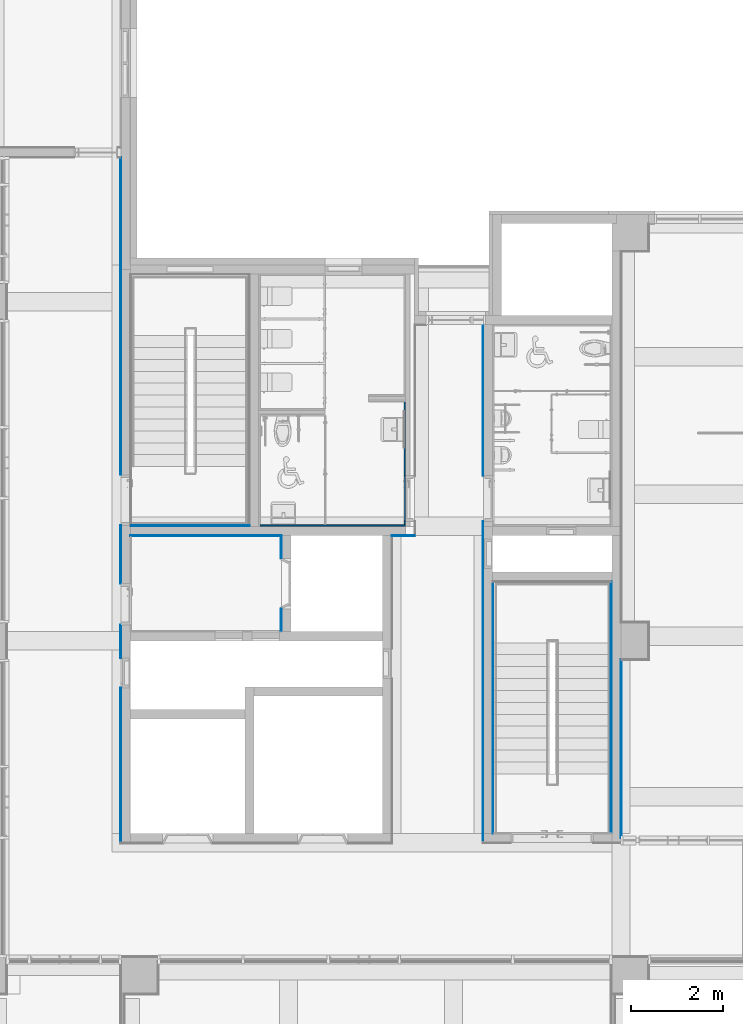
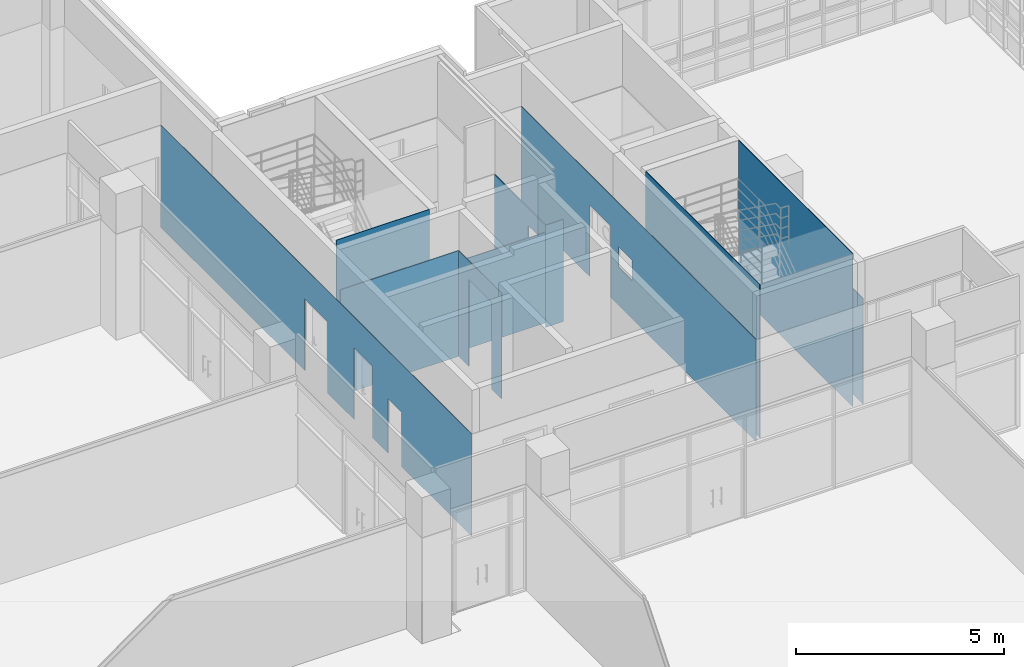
# One storey, part 55 of 74: 11 walls, 7 openings.
"""IFC2X3 building model written with IfcOpenShell, lengths in millimetres."""

from ifc_helpers import new_model, entity, si_unit, converted_unit, derived_unit, direction, frame, frame_2d, origin, place, context, subcontext, project, spatial, rectangle, extrude, material, layer, layer_set, layer_usage, type_object, element, save


model = new_model("IFC2X3")

# Units and contexts
model_context = context("Model", 3, precision=0.01, world=origin(), true_north=direction((6.123031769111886e-17, 1.0)))
body_context = subcontext(model_context, "Body", "Model", "MODEL_VIEW")
ifc_project = project(units=[si_unit("LENGTHUNIT", "METRE", prefix="MILLI"), si_unit("AREAUNIT", "SQUARE_METRE"), si_unit("VOLUMEUNIT", "CUBIC_METRE"), converted_unit("PLANEANGLEUNIT", "DEGREE", entity("IfcRatioMeasure", 0.017453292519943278), si_unit("PLANEANGLEUNIT", "RADIAN"), dimensions=[0, 0, 0, 0, 0, 0, 0]), si_unit("MASSUNIT", "GRAM", prefix="KILO"), derived_unit("MASSDENSITYUNIT", [(si_unit("MASSUNIT", "GRAM", prefix="KILO"), 1), (si_unit("LENGTHUNIT", "METRE"), -3)]), derived_unit("MOMENTOFINERTIAUNIT", [(si_unit("LENGTHUNIT", "METRE"), 4)]), si_unit("TIMEUNIT", "SECOND"), si_unit("FREQUENCYUNIT", "HERTZ"), si_unit("THERMODYNAMICTEMPERATUREUNIT", "DEGREE_CELSIUS"), derived_unit("THERMALTRANSMITTANCEUNIT", [(si_unit("MASSUNIT", "GRAM", prefix="KILO"), 1), (si_unit("THERMODYNAMICTEMPERATUREUNIT", "KELVIN"), -1), (si_unit("TIMEUNIT", "SECOND"), -3)]), derived_unit("VOLUMETRICFLOWRATEUNIT", [(si_unit("LENGTHUNIT", "METRE"), 3), (si_unit("TIMEUNIT", "SECOND"), -1)]), derived_unit("MASSFLOWRATEUNIT", [(si_unit("MASSUNIT", "GRAM", prefix="KILO"), 1), (si_unit("TIMEUNIT", "SECOND"), -1)]), derived_unit("ROTATIONALFREQUENCYUNIT", [(si_unit("TIMEUNIT", "SECOND"), -1)]), si_unit("ELECTRICCURRENTUNIT", "AMPERE"), si_unit("ELECTRICVOLTAGEUNIT", "VOLT"), si_unit("POWERUNIT", "WATT"), si_unit("FORCEUNIT", "NEWTON", prefix="KILO"), si_unit("ILLUMINANCEUNIT", "LUX"), si_unit("LUMINOUSFLUXUNIT", "LUMEN"), si_unit("LUMINOUSINTENSITYUNIT", "CANDELA"), derived_unit("USERDEFINED", [(si_unit("MASSUNIT", "GRAM", prefix="KILO"), -1), (si_unit("LENGTHUNIT", "METRE"), -2), (si_unit("TIMEUNIT", "SECOND"), 3), (si_unit("LUMINOUSFLUXUNIT", "LUMEN"), 1)]), derived_unit("SOUNDPOWERUNIT", [(si_unit("MASSUNIT", "GRAM", prefix="KILO"), 1), (si_unit("LENGTHUNIT", "METRE"), 2), (si_unit("TIMEUNIT", "SECOND"), -3)]), derived_unit("SOUNDPRESSUREUNIT", [(si_unit("MASSUNIT", "GRAM", prefix="KILO"), 1), (si_unit("LENGTHUNIT", "METRE"), -1), (si_unit("TIMEUNIT", "SECOND"), -2)]), derived_unit("LINEARVELOCITYUNIT", [(si_unit("LENGTHUNIT", "METRE"), 1), (si_unit("TIMEUNIT", "SECOND"), -1)]), si_unit("PRESSUREUNIT", "PASCAL"), derived_unit("USERDEFINED", [(si_unit("LENGTHUNIT", "METRE"), -2), (si_unit("MASSUNIT", "GRAM", prefix="KILO"), 1), (si_unit("TIMEUNIT", "SECOND"), -2)]), derived_unit("LINEARFORCEUNIT", [(si_unit("MASSUNIT", "GRAM", prefix="KILO"), 1), (si_unit("LENGTHUNIT", "METRE"), 1), (si_unit("TIMEUNIT", "SECOND"), -2), (si_unit("LENGTHUNIT", "METRE"), -1)]), derived_unit("PLANARFORCEUNIT", [(si_unit("MASSUNIT", "GRAM", prefix="KILO"), 1), (si_unit("LENGTHUNIT", "METRE"), 1), (si_unit("TIMEUNIT", "SECOND"), -2), (si_unit("LENGTHUNIT", "METRE"), -2)])], contexts=[model_context])

# Site, building, storey
site_placement = place(None, frame((-14167.972527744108, -657.2125860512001, 0.0)))
site = spatial("IfcSite", under=ifc_project, at=site_placement, Name="Default", CompositionType="ELEMENT")
building_placement = place(site_placement, origin())
building = spatial("IfcBuilding", under=site, at=building_placement, Name="Sample Building", CompositionType="ELEMENT")
storey_placement = place(building_placement, frame((0.0, 0.0, 4800.0)))
storey = spatial("IfcBuildingStorey", under=building, at=storey_placement, Name="지상 2층", CompositionType="ELEMENT", Elevation=4800.000000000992)

# Walls
ifc_material_1 = material(Name="WA611-수성페인트 (내부) 벽 (3회)")
ifc_layer_1 = layer(ifc_material_1, 1.0)
ifc_material_2 = material(Name="WA551-시멘트모르타르 (내부) 벽 18mm")
ifc_layer_2 = layer(ifc_material_2, 16.0)
ifc_material_3 = material(Name="WA555-콘크리트면정리 벽 (내부)")
ifc_layer_3 = layer(ifc_material_3, 1.0)
ifc_layer_set_1 = layer_set([ifc_layer_1, ifc_layer_2, ifc_layer_3], Name="기본 벽:A1-32-06A-콘크리트면정리, 시멘트모르타르(미장용), 수성페인트(내부) (18mm)")
ifc_layer_usage_1 = layer_usage(ifc_layer_set_1, "AXIS2", "POSITIVE", -9.000000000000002)
wall_type_1 = type_object("IfcWallType", Name="기본 벽:A1-32-06A-콘크리트면정리, 시멘트모르타르(미장용), 수성페인트(내부) (18mm)", PredefinedType="STANDARD", material=ifc_layer_set_1)
wall_1_placement = place(storey_placement, frame((32867.972491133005, 22466.21231133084, 0.0), z_axis=(0.0, 0.0, 1.0), x_axis=(-1.0, 0.0, 0.0)))
element("IfcWallStandardCase", 1, at=wall_1_placement, inside=storey, type_object=wall_type_1, material=ifc_layer_usage_1, Name="기본 벽:A1-32-06A-콘크리트면정리, 시멘트모르타르(미장용), 수성페인트(내부) (18mm)", ObjectType="기본 벽:A1-32-06A-콘크리트면정리, 시멘트모르타르(미장용), 수성페인트(내부) (18mm)", context=body_context, shape_type="SweptSolid", body=[
    extrude(rectangle(XDim=2582.008729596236, YDim=18.00000000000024, at=frame_2d((1291.004364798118, -2.1662671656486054e-12), x_axis=(-1.0, 0.0))), origin(), (0.0, 0.0, 1.0), 4500.000000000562),
])
ifc_layer_usage_2 = layer_usage(ifc_layer_set_1, "AXIS2", "POSITIVE", -9.000000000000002)
wall_2_placement = place(storey_placement, frame((38176.963798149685, 15757.212295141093, 0.0), z_axis=(0.0, 0.0, 1.0), x_axis=(0.0, 1.0, 0.0)))
element("IfcWallStandardCase", 2, at=wall_2_placement, inside=storey, type_object=wall_type_1, material=ifc_layer_usage_2, Name="기본 벽:A1-32-06A-콘크리트면정리, 시멘트모르타르(미장용), 수성페인트(내부) (18mm)", ObjectType="기본 벽:A1-32-06A-콘크리트면정리, 시멘트모르타르(미장용), 수성페인트(내부) (18mm)", context=body_context, shape_type="SweptSolid", body=[
    extrude(rectangle(XDim=5481.999996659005, YDim=18.00000000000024, at=frame_2d((2740.9999983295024, -2.1662671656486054e-12), x_axis=(-1.0, 0.0))), origin(), (0.0, 0.0, 1.0), 4500.000000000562),
])
ifc_layer_usage_3 = layer_usage(ifc_layer_set_1, "AXIS2", "POSITIVE", -9.000000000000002)
wall_3_placement = place(storey_placement, frame((40758.972471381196, 21257.212291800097, 0.0), z_axis=(0.0, 0.0, 1.0), x_axis=(0.0, -1.0, 0.0)))
element("IfcWallStandardCase", 3, at=wall_3_placement, inside=storey, type_object=wall_type_1, material=ifc_layer_usage_3, Name="기본 벽:A1-32-06A-콘크리트면정리, 시멘트모르타르(미장용), 수성페인트(내부) (18mm)", ObjectType="기본 벽:A1-32-06A-콘크리트면정리, 시멘트모르타르(미장용), 수성페인트(내부) (18mm)", context=body_context, shape_type="SweptSolid", body=[
    extrude(rectangle(XDim=5481.999996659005, YDim=17.999999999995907, at=frame_2d((2740.9999983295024, 0.0), x_axis=(-1.0, 0.0))), origin(), (0.0, 0.0, 1.0), 4500.000000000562),
])
ifc_layer_usage_4 = layer_usage(ifc_layer_set_1, "AXIS2", "POSITIVE", -9.000000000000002)
wall_4_placement = place(storey_placement, frame((30267.963761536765, 22248.212311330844, 80.0)))
element("IfcWallStandardCase", 4, at=wall_4_placement, inside=storey, type_object=wall_type_1, material=ifc_layer_usage_4, Name="기본 벽:A1-32-06A-콘크리트면정리, 시멘트모르타르(미장용), 수성페인트(내부) (18mm)", ObjectType="기본 벽:A1-32-06A-콘크리트면정리, 시멘트모르타르(미장용), 수성페인트(내부) (18mm)", context=body_context, shape_type="SweptSolid", body=[
    extrude(rectangle(XDim=3282.008729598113, YDim=18.00000000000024, at=frame_2d((1641.0043647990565, -2.1662671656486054e-12), x_axis=(-1.0, 0.0))), origin(), (0.0, 0.0, 1.0), 3100.000000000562),
])

# Wall, opening
ifc_layer_usage_5 = layer_usage(ifc_layer_set_1, "AXIS2", "POSITIVE", -9.000000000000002)
wall_5_placement = place(storey_placement, frame((33558.97249113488, 22257.212311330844, 80.0), z_axis=(0.0, 0.0, 1.0), x_axis=(0.0, -1.0, 0.0)))
wall_5 = element("IfcWallStandardCase", 5, at=wall_5_placement, inside=storey, type_object=wall_type_1, material=ifc_layer_usage_5, Name="기본 벽:A1-32-06A-콘크리트면정리, 시멘트모르타르(미장용), 수성페인트(내부) (18mm)", ObjectType="기본 벽:A1-32-06A-콘크리트면정리, 시멘트모르타르(미장용), 수성페인트(내부) (18mm)", context=body_context, shape_type="SweptSolid", body=[
    extrude(rectangle(XDim=2082.000003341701, YDim=18.00000000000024, at=frame_2d((1041.0000016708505, -2.76667577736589e-12), x_axis=(1.0, 0.0))), origin(), (0.0, 0.0, 1.0), 3100.000000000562),
])
opening_1_placement = place(wall_5_placement, origin())
element("IfcOpeningElement", 6, at=opening_1_placement, cuts=wall_5, Name="기본 벽:A1-32-06A-콘크리트면정리, 시멘트모르타르(미장용), 수성페인트(내부) (18mm)", ObjectType="Opening", context=body_context, shape_type="SweptSolid", body=[
    extrude(rectangle(XDim=2549.999999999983, YDim=1099.9999999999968, at=frame_2d((0.0, 2.1600499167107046e-12), x_axis=(1.0, 0.0))), frame((1050.0, -1315.0, 1275.0), z_axis=(0.0, 1.0, 0.0), x_axis=(0.0, 0.0, 1.0)), (0.0, 0.0, 1.0), 3048.0),
])

# Wall
ifc_layer_usage_6 = layer_usage(ifc_layer_set_1, "AXIS2", "POSITIVE", -9.000000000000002)
wall_6_placement = place(storey_placement, frame((40976.96379814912, 15652.177678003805, 80.0), z_axis=(0.0, 0.0, 1.0), x_axis=(0.0, 1.0, 0.0)))
element("IfcWallStandardCase", 7, at=wall_6_placement, inside=storey, type_object=wall_type_1, material=ifc_layer_usage_6, Name="기본 벽:A1-32-06A-콘크리트면정리, 시멘트모르타르(미장용), 수성페인트(내부) (18mm)", ObjectType="기본 벽:A1-32-06A-콘크리트면정리, 시멘트모르타르(미장용), 수성페인트(내부) (18mm)", context=body_context, shape_type="SweptSolid", body=[
    extrude(rectangle(XDim=3905.034629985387, YDim=17.999999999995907, at=frame_2d((1952.5173149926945, 1.000088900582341e-12), x_axis=(-1.0, 0.0))), origin(), (0.0, 0.0, 1.0), 3100.0000000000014),
])

# Wall, openings
ifc_layer_usage_7 = layer_usage(ifc_layer_set_1, "AXIS2", "NEGATIVE", 9.000000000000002)
wall_7_placement = place(storey_placement, frame((37958.9637981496, 15562.177678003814, 80.0), z_axis=(0.0, 0.0, 1.0), x_axis=(0.0, 1.0, 0.0)))
wall_7 = element("IfcWallStandardCase", 8, at=wall_7_placement, inside=storey, type_object=wall_type_1, material=ifc_layer_usage_7, Name="기본 벽:A1-32-06A-콘크리트면정리, 시멘트모르타르(미장용), 수성페인트(내부) (18mm)", ObjectType="기본 벽:A1-32-06A-콘크리트면정리, 시멘트모르타르(미장용), 수성페인트(내부) (18mm)", context=body_context, shape_type="SweptSolid", body=[
    extrude(rectangle(XDim=11295.034617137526, YDim=18.00000000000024, at=frame_2d((5647.517308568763, -2.1662671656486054e-12), x_axis=(1.0, 0.0))), origin(), (0.0, 0.0, 1.0), 3000.000000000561),
])
opening_2_placement = place(wall_7_placement, origin())
element("IfcOpeningElement", 9, at=opening_2_placement, cuts=wall_7, Name="기본 벽:A1-32-06A-콘크리트면정리, 시멘트모르타르(미장용), 수성페인트(내부) (18mm)", ObjectType="Opening", context=body_context, shape_type="SweptSolid", body=[
    extrude(rectangle(XDim=2099.9999999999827, YDim=999.999999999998, at=frame_2d((-5.684341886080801e-13, 0.0), x_axis=(1.0, 0.0))), frame((7501.495140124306, -1533.0, 1050.0), z_axis=(0.0, 1.0, 0.0), x_axis=(0.0, 0.0, 1.0)), (0.0, 0.0, 1.0), 3048.0),
])
opening_3_placement = place(wall_7_placement, origin())
element("IfcOpeningElement", 10, at=opening_3_placement, cuts=wall_7, Name="기본 벽:A1-32-06A-콘크리트면정리, 시멘트모르타르(미장용), 수성페인트(내부) (18mm)", ObjectType="Opening", context=body_context, shape_type="SweptSolid", body=[
    extrude(rectangle(XDim=600.0, YDim=649.9999999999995, at=frame_2d((0.0, 0.0), x_axis=(0.0, 1.0))), frame((6295.0, -1733.0, 1420.0), z_axis=(0.0, 1.0, 0.0), x_axis=(-1.0, 0.0, 0.0)), (0.0, 0.0, 1.0), 3048.0),
])

# Wall
ifc_layer_usage_8 = layer_usage(ifc_layer_set_1, "AXIS2", "NEGATIVE", 9.000000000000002)
wall_8_placement = place(storey_placement, frame((36467.96379814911, 22248.212311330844, 80.0), z_axis=(0.0, 0.0, 1.0), x_axis=(-1.0, 0.0, 0.0)))
element("IfcWallStandardCase", 11, at=wall_8_placement, inside=storey, type_object=wall_type_1, material=ifc_layer_usage_8, Name="기본 벽:A1-32-06A-콘크리트면정리, 시멘트모르타르(미장용), 수성페인트(내부) (18mm)", ObjectType="기본 벽:A1-32-06A-콘크리트면정리, 시멘트모르타르(미장용), 수성페인트(내부) (18mm)", context=body_context, shape_type="SweptSolid", body=[
    extrude(rectangle(XDim=499.9913070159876, YDim=18.00000000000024, at=frame_2d((249.9956535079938, -2.1662671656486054e-12), x_axis=(-1.0, 0.0))), origin(), (0.0, 0.0, 1.0), 3000.000000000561),
])

# Wall, openings
ifc_layer_usage_9 = layer_usage(ifc_layer_set_1, "AXIS2", "NEGATIVE", 9.000000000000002)
wall_9_placement = place(storey_placement, frame((30058.96376153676, 15553.302947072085, 80.0), z_axis=(0.0, 0.0, 1.0), x_axis=(0.0, 1.0, 0.0)))
wall_9 = element("IfcWallStandardCase", 12, at=wall_9_placement, inside=storey, type_object=wall_type_1, material=ifc_layer_usage_9, Name="기본 벽:A1-32-06A-콘크리트면정리, 시멘트모르타르(미장용), 수성페인트(내부) (18mm)", ObjectType="기본 벽:A1-32-06A-콘크리트면정리, 시멘트모르타르(미장용), 수성페인트(내부) (18mm)", context=body_context, shape_type="SweptSolid", body=[
    extrude(rectangle(XDim=14953.909328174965, YDim=18.00000000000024, at=frame_2d((7476.954664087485, -2.1662671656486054e-12), x_axis=(1.0, 0.0))), origin(), (0.0, 0.0, 1.0), 3000.000000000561),
])
opening_4_placement = place(wall_9_placement, origin())
element("IfcOpeningElement", 13, at=opening_4_placement, cuts=wall_9, Name="기본 벽:A1-32-06A-콘크리트면정리, 시멘트모르타르(미장용), 수성페인트(내부) (18mm)", ObjectType="Opening", context=body_context, shape_type="SweptSolid", body=[
    extrude(rectangle(XDim=2099.999999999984, YDim=899.999999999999, at=frame_2d((0.0, 2.1600499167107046e-12), x_axis=(1.0, 0.0))), frame((5203.874678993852, -1533.0, 1050.0), z_axis=(0.0, 1.0, 0.0), x_axis=(0.0, 0.0, 1.0)), (0.0, 0.0, 1.0), 3048.0),
])
opening_5_placement = place(wall_9_placement, origin())
element("IfcOpeningElement", 14, at=opening_5_placement, cuts=wall_9, Name="기본 벽:A1-32-06A-콘크리트면정리, 시멘트모르타르(미장용), 수성페인트(내부) (18mm)", ObjectType="Opening", context=body_context, shape_type="SweptSolid", body=[
    extrude(rectangle(XDim=2099.9999999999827, YDim=1100.0000000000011, at=frame_2d((-5.684341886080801e-13, 0.0), x_axis=(1.0, 0.0))), frame((7473.874680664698, -1533.0, 1050.0), z_axis=(0.0, 1.0, 0.0), x_axis=(0.0, 0.0, 1.0)), (0.0, 0.0, 1.0), 3048.0),
])
opening_6_placement = place(wall_9_placement, origin())
element("IfcOpeningElement", 15, at=opening_6_placement, cuts=wall_9, Name="기본 벽:A1-32-06A-콘크리트면정리, 시멘트모르타르(미장용), 수성페인트(내부) (18mm)", ObjectType="Opening", context=body_context, shape_type="SweptSolid", body=[
    extrude(rectangle(XDim=1600.0, YDim=649.9999999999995, at=frame_2d((0.0, 0.0), x_axis=(0.0, 1.0))), frame((3703.8747316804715, -1733.0, 800.0), z_axis=(0.0, 1.0, 0.0), x_axis=(-1.0, 0.0, 0.0)), (0.0, 0.0, 1.0), 3048.0),
])

# Wall, opening
ifc_material_4 = material(Name="WA352-도기질타일 벽 200x200")
ifc_layer_4 = layer(ifc_material_4, 8.0)
ifc_material_5 = material(Name="WA551-시멘트모르타르 (내부) 벽 22mm")
ifc_layer_5 = layer(ifc_material_5, 22.0)
ifc_layer_set_2 = layer_set([ifc_layer_4, ifc_layer_5], Name="기본 벽:A1-33-01B-시멘트 모르타르, 도기질타일 (30mm)")
ifc_layer_usage_10 = layer_usage(ifc_layer_set_2, "AXIS2", "POSITIVE", -15.0)
wall_type_2 = type_object("IfcWallType", Name="기본 벽:A1-33-01B-시멘트 모르타르, 도기질타일 (30mm)", PredefinedType="STANDARD", material=ifc_layer_set_2)
wall_10_placement = place(storey_placement, frame((36252.96379815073, 22487.212311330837, 40.0), z_axis=(0.0, 0.0, 1.0), x_axis=(0.0, 1.0, 0.0)))
wall_10 = element("IfcWallStandardCase", 16, at=wall_10_placement, inside=storey, type_object=wall_type_2, material=ifc_layer_usage_10, Name="기본 벽:A1-33-01B-시멘트 모르타르, 도기질타일 (30mm)", ObjectType="기본 벽:A1-33-01B-시멘트 모르타르, 도기질타일 (30mm)", context=body_context, shape_type="SweptSolid", body=[
    extrude(rectangle(XDim=2689.999998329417, YDim=30.000000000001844, at=frame_2d((1344.9999991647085, 1.0649259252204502e-12), x_axis=(-1.0, 0.0))), origin(), (0.0, 0.0, 1.0), 2649.9999999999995),
])
opening_7_placement = place(wall_10_placement, origin())
element("IfcOpeningElement", 17, at=opening_7_placement, cuts=wall_10, Name="기본 벽:A1-33-01B-시멘트 모르타르, 도기질타일 (30mm)", ObjectType="Opening", context=body_context, shape_type="SweptSolid", body=[
    extrude(rectangle(XDim=2099.9999999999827, YDim=999.999999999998, at=frame_2d((-5.684341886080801e-13, 0.0), x_axis=(1.0, 0.0))), frame((576.4605067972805, -1739.0, 1090.0), z_axis=(0.0, 1.0, 0.0), x_axis=(0.0, 0.0, 1.0)), (0.0, 0.0, 1.0), 3048.0),
])

# Wall
ifc_layer_usage_11 = layer_usage(ifc_layer_set_2, "AXIS2", "POSITIVE", -15.0)
wall_11_placement = place(storey_placement, frame((33097.98122724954, 22472.212311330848, 40.0)))
element("IfcWallStandardCase", 18, at=wall_11_placement, inside=storey, type_object=wall_type_2, material=ifc_layer_usage_11, Name="기본 벽:A1-33-01B-시멘트 모르타르, 도기질타일 (30mm)", ObjectType="기본 벽:A1-33-01B-시멘트 모르타르, 도기질타일 (30mm)", context=body_context, shape_type="SweptSolid", body=[
    extrude(rectangle(XDim=3169.982570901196, YDim=30.00000000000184, at=frame_2d((1584.991285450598, 7.016609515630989e-13), x_axis=(-1.0, 0.0))), origin(), (0.0, 0.0, 1.0), 2649.9999999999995),
])

save(model, "model.ifc")
